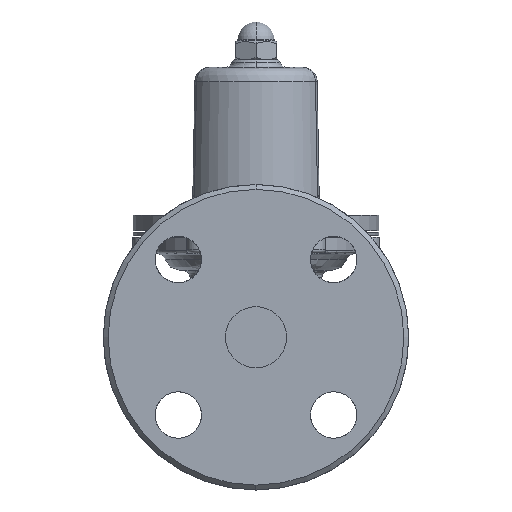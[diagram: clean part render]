
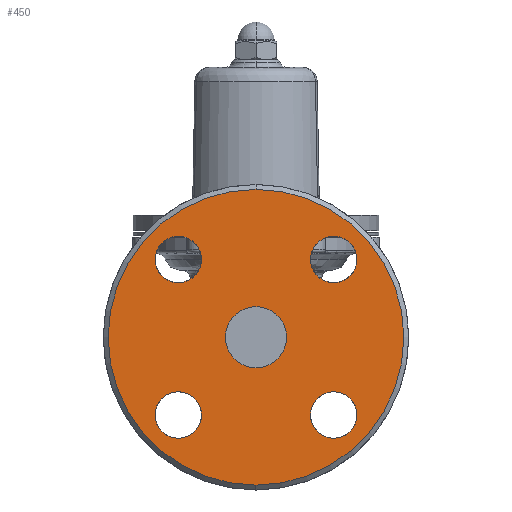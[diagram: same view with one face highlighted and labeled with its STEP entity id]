
A CAD part, left-side view. The second image highlights one B-rep face of the part: STEP entity #450.
In plain terms, the highlighted planar face has unit normal (-1, 0, 0).
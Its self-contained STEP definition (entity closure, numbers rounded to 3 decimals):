
#450=ADVANCED_FACE('',(#2991,#2992,#2993,#2994,#2995,#2996),#2990,.F.);
#2990=PLANE('',#11258);
#2991=FACE_OUTER_BOUND('',#11259,.T.);
#2992=FACE_BOUND('',#11260,.T.);
#2993=FACE_BOUND('',#11261,.T.);
#2994=FACE_BOUND('',#11262,.T.);
#2995=FACE_BOUND('',#11263,.T.);
#2996=FACE_BOUND('',#11264,.T.);
#11255=CARTESIAN_POINT('',(-81.,-114.789,70.5));
#11256=DIRECTION('',(1.,0.,0.));
#11257=DIRECTION('',(0.,0.,-1.));
#11258=AXIS2_PLACEMENT_3D('',#11255,#11256,#11257);
#11259=EDGE_LOOP('',(#16753,#16754));
#11260=EDGE_LOOP('',(#16755,#16756));
#11261=EDGE_LOOP('',(#16757,#16758));
#11262=EDGE_LOOP('',(#16759,#16760));
#11263=EDGE_LOOP('',(#16761,#16762));
#11264=EDGE_LOOP('',(#16763,#16764));
#16753=ORIENTED_EDGE('',*,*,#18797,.T.);
#16754=ORIENTED_EDGE('',*,*,#18798,.T.);
#16755=ORIENTED_EDGE('',*,*,#18799,.T.);
#16756=ORIENTED_EDGE('',*,*,#18800,.T.);
#16757=ORIENTED_EDGE('',*,*,#18801,.T.);
#16758=ORIENTED_EDGE('',*,*,#18802,.T.);
#16759=ORIENTED_EDGE('',*,*,#18803,.T.);
#16760=ORIENTED_EDGE('',*,*,#18804,.T.);
#16761=ORIENTED_EDGE('',*,*,#18805,.T.);
#16762=ORIENTED_EDGE('',*,*,#18806,.T.);
#16763=ORIENTED_EDGE('',*,*,#18807,.F.);
#16764=ORIENTED_EDGE('',*,*,#18808,.F.);
#18797=EDGE_CURVE('',#23802,#23803,#23804,.T.);
#18798=EDGE_CURVE('',#23803,#23802,#23810,.T.);
#18799=EDGE_CURVE('',#23816,#23817,#23818,.T.);
#18800=EDGE_CURVE('',#23817,#23816,#23824,.T.);
#18801=EDGE_CURVE('',#23830,#23831,#23832,.T.);
#18802=EDGE_CURVE('',#23831,#23830,#23838,.T.);
#18803=EDGE_CURVE('',#23844,#23845,#23846,.T.);
#18804=EDGE_CURVE('',#23845,#23844,#23852,.T.);
#18805=EDGE_CURVE('',#23858,#23859,#23860,.T.);
#18806=EDGE_CURVE('',#23859,#23858,#23866,.T.);
#18807=EDGE_CURVE('',#23872,#23873,#23874,.T.);
#18808=EDGE_CURVE('',#23873,#23872,#23880,.T.);
#23802=VERTEX_POINT('',#32150);
#23803=VERTEX_POINT('',#32151);
#23804=CIRCLE('',#32155,60.5);
#23810=CIRCLE('',#32159,60.5);
#23816=VERTEX_POINT('',#32160);
#23817=VERTEX_POINT('',#32161);
#23818=CIRCLE('',#32165,9.5);
#23824=CIRCLE('',#32169,9.5);
#23830=VERTEX_POINT('',#32170);
#23831=VERTEX_POINT('',#32171);
#23832=CIRCLE('',#32175,9.5);
#23838=CIRCLE('',#32179,9.5);
#23844=VERTEX_POINT('',#32180);
#23845=VERTEX_POINT('',#32181);
#23846=CIRCLE('',#32185,9.5);
#23852=CIRCLE('',#32189,9.5);
#23858=VERTEX_POINT('',#32190);
#23859=VERTEX_POINT('',#32191);
#23860=CIRCLE('',#32195,9.5);
#23866=CIRCLE('',#32199,9.5);
#23872=VERTEX_POINT('',#32200);
#23873=VERTEX_POINT('',#32201);
#23874=CIRCLE('',#32205,12.5);
#23880=CIRCLE('',#32209,12.5);
#32150=CARTESIAN_POINT('',(-81.,0.,60.5));
#32151=CARTESIAN_POINT('',(-81.,0.,-60.5));
#32152=CARTESIAN_POINT('',(-81.,0.,0.));
#32153=DIRECTION('',(-1.,0.,0.));
#32154=DIRECTION('',(0.,0.,1.));
#32155=AXIS2_PLACEMENT_3D('',#32152,#32153,#32154);
#32156=CARTESIAN_POINT('',(-81.,0.,0.));
#32157=DIRECTION('',(-1.,0.,0.));
#32158=DIRECTION('',(0.,0.,1.));
#32159=AXIS2_PLACEMENT_3D('',#32156,#32157,#32158);
#32160=CARTESIAN_POINT('',(-81.,-31.82,-22.32));
#32161=CARTESIAN_POINT('',(-81.,-31.82,-41.32));
#32162=CARTESIAN_POINT('',(-81.,-31.82,-31.82));
#32163=DIRECTION('',(1.,0.,0.));
#32164=DIRECTION('',(0.,0.,1.));
#32165=AXIS2_PLACEMENT_3D('',#32162,#32163,#32164);
#32166=CARTESIAN_POINT('',(-81.,-31.82,-31.82));
#32167=DIRECTION('',(1.,0.,0.));
#32168=DIRECTION('',(0.,0.,1.));
#32169=AXIS2_PLACEMENT_3D('',#32166,#32167,#32168);
#32170=CARTESIAN_POINT('',(-81.,31.82,41.32));
#32171=CARTESIAN_POINT('',(-81.,31.82,22.32));
#32172=CARTESIAN_POINT('',(-81.,31.82,31.82));
#32173=DIRECTION('',(1.,0.,0.));
#32174=DIRECTION('',(0.,0.,1.));
#32175=AXIS2_PLACEMENT_3D('',#32172,#32173,#32174);
#32176=CARTESIAN_POINT('',(-81.,31.82,31.82));
#32177=DIRECTION('',(1.,0.,0.));
#32178=DIRECTION('',(0.,0.,1.));
#32179=AXIS2_PLACEMENT_3D('',#32176,#32177,#32178);
#32180=CARTESIAN_POINT('',(-81.,-31.82,41.32));
#32181=CARTESIAN_POINT('',(-81.,-31.82,22.32));
#32182=CARTESIAN_POINT('',(-81.,-31.82,31.82));
#32183=DIRECTION('',(1.,0.,0.));
#32184=DIRECTION('',(0.,0.,1.));
#32185=AXIS2_PLACEMENT_3D('',#32182,#32183,#32184);
#32186=CARTESIAN_POINT('',(-81.,-31.82,31.82));
#32187=DIRECTION('',(1.,0.,0.));
#32188=DIRECTION('',(0.,0.,1.));
#32189=AXIS2_PLACEMENT_3D('',#32186,#32187,#32188);
#32190=CARTESIAN_POINT('',(-81.,31.82,-22.32));
#32191=CARTESIAN_POINT('',(-81.,31.82,-41.32));
#32192=CARTESIAN_POINT('',(-81.,31.82,-31.82));
#32193=DIRECTION('',(1.,0.,0.));
#32194=DIRECTION('',(0.,0.,1.));
#32195=AXIS2_PLACEMENT_3D('',#32192,#32193,#32194);
#32196=CARTESIAN_POINT('',(-81.,31.82,-31.82));
#32197=DIRECTION('',(1.,0.,0.));
#32198=DIRECTION('',(0.,0.,1.));
#32199=AXIS2_PLACEMENT_3D('',#32196,#32197,#32198);
#32200=CARTESIAN_POINT('',(-81.,0.,12.5));
#32201=CARTESIAN_POINT('',(-81.,0.,-12.5));
#32202=CARTESIAN_POINT('',(-81.,0.,0.));
#32203=DIRECTION('',(-1.,0.,0.));
#32204=DIRECTION('',(0.,0.,-1.));
#32205=AXIS2_PLACEMENT_3D('',#32202,#32203,#32204);
#32206=CARTESIAN_POINT('',(-81.,0.,0.));
#32207=DIRECTION('',(-1.,0.,0.));
#32208=DIRECTION('',(0.,0.,-1.));
#32209=AXIS2_PLACEMENT_3D('',#32206,#32207,#32208);
